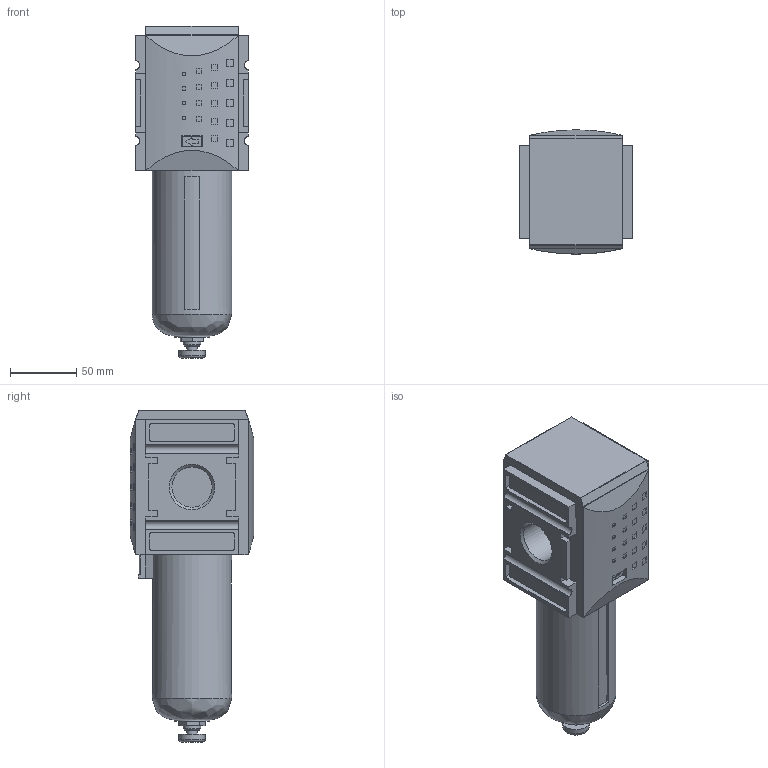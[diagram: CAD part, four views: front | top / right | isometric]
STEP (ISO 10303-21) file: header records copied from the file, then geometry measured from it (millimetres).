
FILE_DESCRIPTION((''),'2;1');
FILE_NAME('K:\ZEICHNG\Kunden Modelle\FUTURA Steps\BG4\KFIL-41.stp','2010-02-10T08:22:42',('DDruske'),(''),'Autodesk Inventor 2009','Autodesk Inventor 2009','');
FILE_SCHEMA(('AUTOMOTIVE_DESIGN { 1 0 10303 214 1 1 1 1 }'));
Length unit declared in the file: millimetre
Products named in the file (1): Bauteil1
Bounding box: 85 x 93.28 x 249.8 mm (x, y, z)
Volume: 1044686.2 mm3; surface area: 95986.2 mm2
Topology: 1 solids, 2 shells, 456 faces, 1156 edges, 745 vertices
Faces by surface type: plane 263, cylinder 119, bspline 54, torus 9, sphere 8, cone 3
Full cylindrical faces by diameter (mm): 8 x1, 13 x1, 20 x1, 24.1 x1, 27 x1, 30.291 x1, 60 x1
Entity records: 14233 total; most frequent: CARTESIAN_POINT 2698, ORIENTED_EDGE 2268, DIRECTION 2264, EDGE_CURVE 1134, VECTOR 778, LINE 778, VERTEX_POINT 744, AXIS2_PLACEMENT_3D 743
